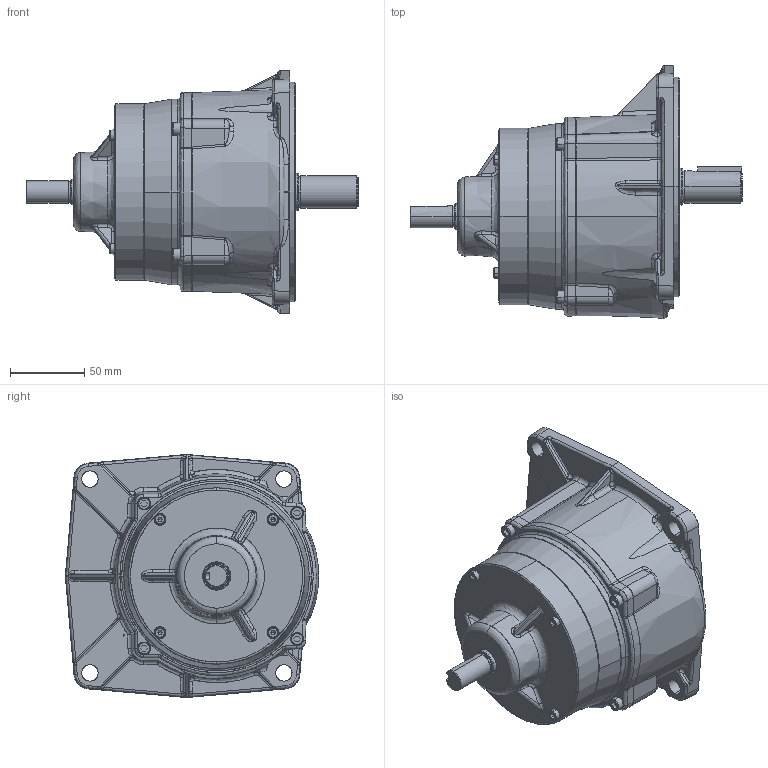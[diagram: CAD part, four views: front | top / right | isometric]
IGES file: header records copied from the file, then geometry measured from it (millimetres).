
Start section: SolidWorks IGES file using analytic representation for surfaces
Bounding box: 224 x 170.86 x 164 mm (x, y, z)
Surface area: 176336.8 mm2 (no closed solid volume)
Topology: 0 solids, 0 shells, 729 faces, 9019 edges, 9005 vertices
Faces by surface type: bspline 457, revolution 272
